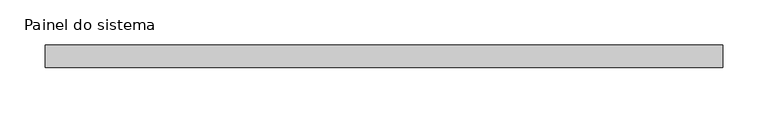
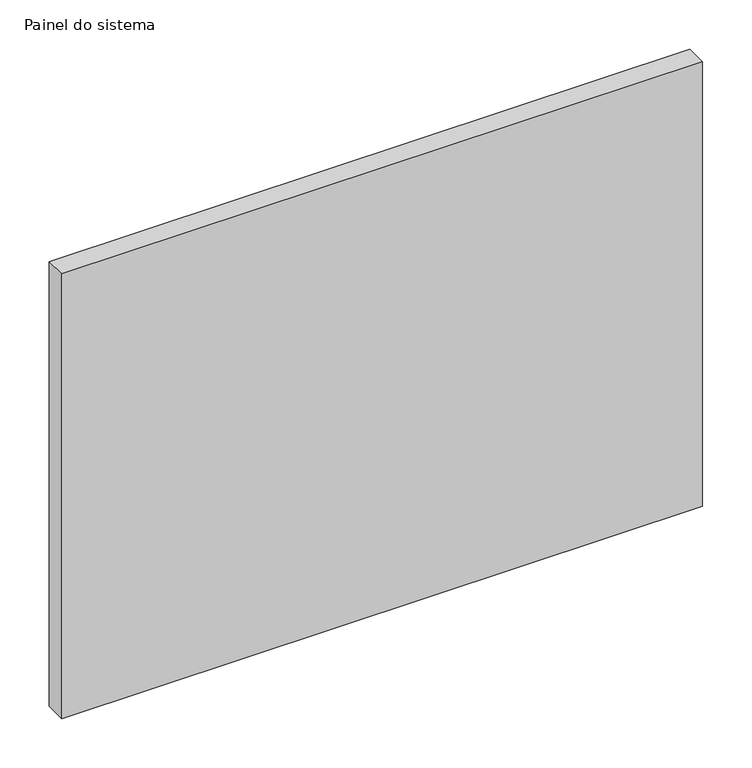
"""IFC4 building model written with IfcOpenShell, lengths in millimetres: plate geometry, Painel do sistema : Envidraçado."""

from ifc_helpers import new_model, si_unit, origin, origin_with_axes, place, context, project, spatial, polyline, outline, extrude, source, transform, mapped, element, save


def painel_do_sistema_4de75592(model_context):
    return source(origin(), model_context, "Body", "SweptSolid", [
        extrude(outline(polyline([(375.0, 24.5), (-375.0, 24.5), (-375.0, 49.5), (375.0, 49.5), (375.0, 24.5)])), origin_with_axes(), (0.0, 0.0, 1.0), 550.0),
    ])


if __name__ == "__main__":
    model = new_model("IFC4")
    model_context = context("Model", 3, world=origin())
    ifc_project = project(units=[si_unit("LENGTHUNIT", "METRE", prefix="MILLI")], contexts=[model_context])
    site = spatial("IfcSite", under=ifc_project)
    building = spatial("IfcBuilding", under=site)
    placement = place(None, origin())
    painel_do_sistema_shape = painel_do_sistema_4de75592(model_context)
    element("IfcPlate", 1, ObjectType="Painel do sistema : Envidraçado", at=placement, inside=building, context=model_context, shape_type="MappedRepresentation", body=[
        mapped(painel_do_sistema_shape, transform((0.0, 0.0, 0.0), x_axis=(1.0, 0.0, 0.0), y_axis=(0.0, 1.0, 0.0), z_axis=(0.0, 0.0, 1.0))),
    ])
    save(model, "model.ifc")
